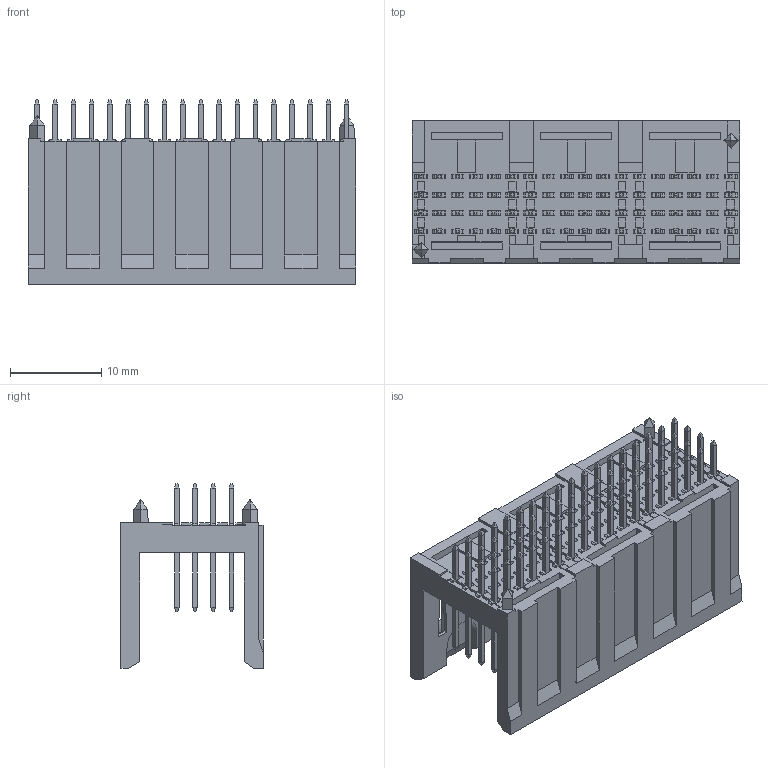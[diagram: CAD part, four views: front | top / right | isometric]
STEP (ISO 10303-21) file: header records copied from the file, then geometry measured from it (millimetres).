
FILE_DESCRIPTION (( 'STEP AP214' ), '1' );
FILE_NAME ('9111-4172EC10DU.STEP', '2016-11-09T07:14:32', ( 'RD02' ), ( '' ), 'SwSTEP 2.0', 'SolidWorks 2011', '' );
FILE_SCHEMA (( 'AUTOMOTIVE_DESIGN' ));
Length unit declared in the file: millimetre
Products named in the file (3): P-9111-4172EC10DU; H-9111-4172EC10DU; 9111-4172EC10DU
Assembly tree (73 placements, depth 2):
  9111-4172EC10DU
    P-9111-4172EC10DU  x72
    H-9111-4172EC10DU
Bounding box: 35.95 x 15.6 x 20.3 mm (x, y, z)
Volume: 2789 mm3; surface area: 5826.2 mm2
Topology: 145 solids, 145 shells, 2244 faces, 5140 edges, 3216 vertices
Faces by surface type: plane 2091, cylinder 153
Entity records: 17153 total; most frequent: CARTESIAN_POINT 3008, ORIENTED_EDGE 2896, DIRECTION 2702, EDGE_CURVE 1448, LINE 1426, VECTOR 1426, VERTEX_POINT 944, AXIS2_PLACEMENT_3D 638
